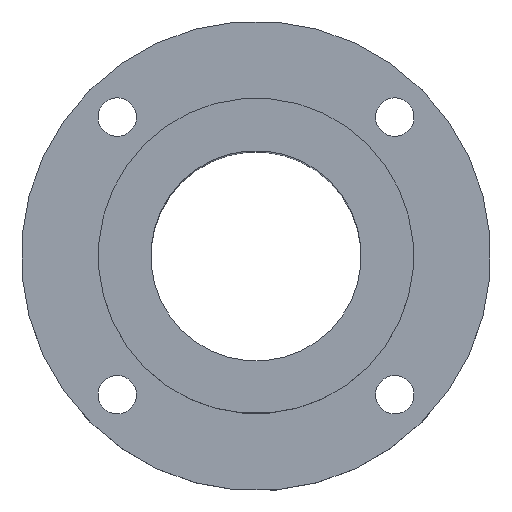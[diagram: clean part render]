
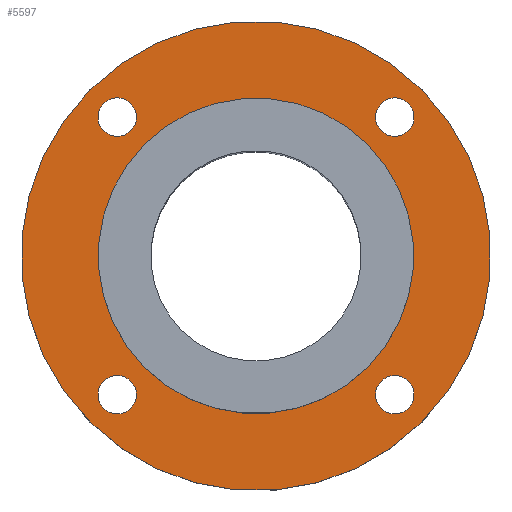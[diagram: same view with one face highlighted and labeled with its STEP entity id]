
A CAD part, top view. The second image highlights one B-rep face of the part: STEP entity #5597.
In plain terms, the highlighted planar face has unit normal (0, 0, 1).
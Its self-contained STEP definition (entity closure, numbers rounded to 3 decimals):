
#112=CIRCLE('',#5953,45.);
#116=CIRCLE('',#5961,67.);
#117=CIRCLE('',#5963,5.5);
#118=CIRCLE('',#5964,5.5);
#119=CIRCLE('',#5965,5.5);
#120=CIRCLE('',#5966,5.5);
#516=ORIENTED_EDGE('',*,*,#2116,.F.);
#517=ORIENTED_EDGE('',*,*,#2117,.F.);
#518=ORIENTED_EDGE('',*,*,#2118,.F.);
#519=ORIENTED_EDGE('',*,*,#2119,.F.);
#520=ORIENTED_EDGE('',*,*,#2111,.T.);
#521=ORIENTED_EDGE('',*,*,#2115,.T.);
#2111=EDGE_CURVE('',#2914,#2914,#112,.F.);
#2115=EDGE_CURVE('',#2918,#2918,#116,.T.);
#2116=EDGE_CURVE('',#2919,#2919,#117,.T.);
#2117=EDGE_CURVE('',#2920,#2920,#118,.T.);
#2118=EDGE_CURVE('',#2921,#2921,#119,.T.);
#2119=EDGE_CURVE('',#2922,#2922,#120,.T.);
#2914=VERTEX_POINT('',#8867);
#2918=VERTEX_POINT('',#8879);
#2919=VERTEX_POINT('',#8882);
#2920=VERTEX_POINT('',#8884);
#2921=VERTEX_POINT('',#8886);
#2922=VERTEX_POINT('',#8888);
#4570=EDGE_LOOP('',(#516));
#4571=EDGE_LOOP('',(#517));
#4572=EDGE_LOOP('',(#518));
#4573=EDGE_LOOP('',(#519));
#4574=EDGE_LOOP('',(#520));
#4575=EDGE_LOOP('',(#521));
#4983=FACE_BOUND('',#4570,.T.);
#4984=FACE_BOUND('',#4571,.T.);
#4985=FACE_BOUND('',#4572,.T.);
#4986=FACE_BOUND('',#4573,.T.);
#4987=FACE_BOUND('',#4574,.T.);
#4988=FACE_BOUND('',#4575,.T.);
#5338=PLANE('',#5962);
#5597=ADVANCED_FACE('',(#4983,#4984,#4985,#4986,#4987,#4988),#5338,.T.);
#5953=AXIS2_PLACEMENT_3D('',#8866,#6463,#6464);
#5961=AXIS2_PLACEMENT_3D('',#8878,#6479,#6480);
#5962=AXIS2_PLACEMENT_3D('',#8880,#6481,#6482);
#5963=AXIS2_PLACEMENT_3D('',#8881,#6483,#6484);
#5964=AXIS2_PLACEMENT_3D('',#8883,#6485,#6486);
#5965=AXIS2_PLACEMENT_3D('',#8885,#6487,#6488);
#5966=AXIS2_PLACEMENT_3D('',#8887,#6489,#6490);
#6463=DIRECTION('',(0.,0.,1.));
#6464=DIRECTION('',(0.707,-0.707,0.));
#6479=DIRECTION('',(0.,0.,1.));
#6480=DIRECTION('',(0.707,-0.707,0.));
#6481=DIRECTION('',(0.,0.,1.));
#6482=DIRECTION('',(0.707,-0.707,0.));
#6483=DIRECTION('',(0.,0.,1.));
#6484=DIRECTION('',(0.707,-0.707,0.));
#6485=DIRECTION('',(0.,0.,1.));
#6486=DIRECTION('',(0.707,-0.707,0.));
#6487=DIRECTION('',(0.,0.,1.));
#6488=DIRECTION('',(0.707,-0.707,0.));
#6489=DIRECTION('',(0.,0.,1.));
#6490=DIRECTION('',(0.707,-0.707,0.));
#8866=CARTESIAN_POINT('',(0.,0.,0.));
#8867=CARTESIAN_POINT('',(31.82,-31.82,0.));
#8878=CARTESIAN_POINT('',(0.,0.,0.));
#8879=CARTESIAN_POINT('',(47.376,-47.376,0.));
#8880=CARTESIAN_POINT('',(0.,0.,0.));
#8881=CARTESIAN_POINT('',(39.598,39.598,0.));
#8882=CARTESIAN_POINT('',(43.487,35.709,0.));
#8883=CARTESIAN_POINT('',(-39.598,39.598,0.));
#8884=CARTESIAN_POINT('',(-35.709,35.709,0.));
#8885=CARTESIAN_POINT('',(-39.598,-39.598,0.));
#8886=CARTESIAN_POINT('',(-35.709,-43.487,0.));
#8887=CARTESIAN_POINT('',(39.598,-39.598,0.));
#8888=CARTESIAN_POINT('',(43.487,-43.487,0.));
